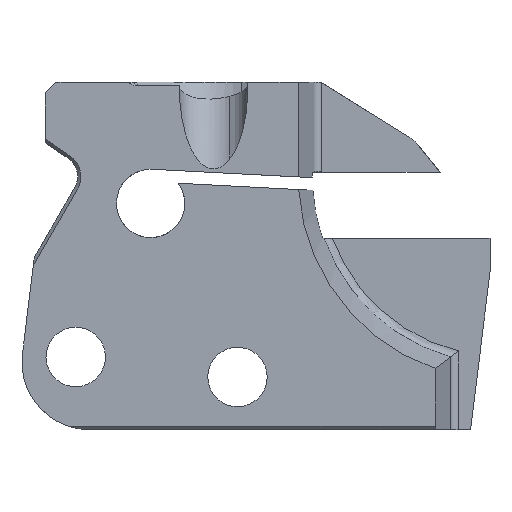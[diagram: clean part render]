
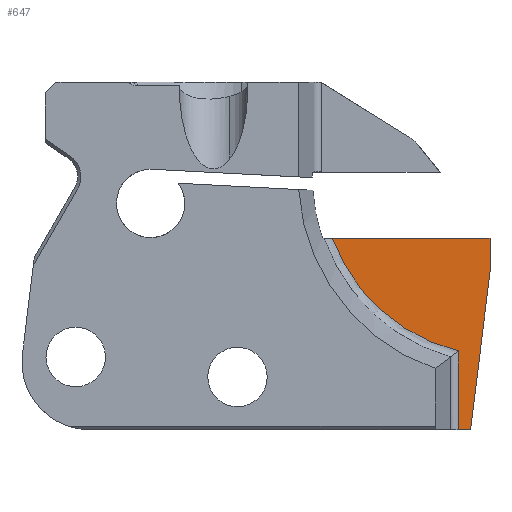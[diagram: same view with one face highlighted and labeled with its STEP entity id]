
A CAD part, front view. The second image highlights one B-rep face of the part: STEP entity #647.
In plain terms, the highlighted planar face has unit normal (0, -1, 0).
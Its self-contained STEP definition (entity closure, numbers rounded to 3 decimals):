
#189=AXIS2_PLACEMENT_3D('Plane Axis2P3D',#186,#187,#188) ;
#617=AXIS2_PLACEMENT_3D('Circle Axis2P3D',#615,#616,$) ;
#186=CARTESIAN_POINT('Axis2P3D Location',(53.924,4.8,24.)) ;
#577=CARTESIAN_POINT('Vertex',(52.924,4.8,15.)) ;
#580=CARTESIAN_POINT('Line Origine',(52.003,4.8,7.5)) ;
#584=CARTESIAN_POINT('Vertex',(51.082,4.8,0.)) ;
#606=CARTESIAN_POINT('Line Origine',(45.435,4.8,18.195)) ;
#610=CARTESIAN_POINT('Vertex',(52.924,4.8,18.195)) ;
#612=CARTESIAN_POINT('Vertex',(37.946,4.8,18.195)) ;
#615=CARTESIAN_POINT('Axis2P3D Location',(53.924,4.8,24.)) ;
#619=CARTESIAN_POINT('Vertex',(49.924,4.8,7.477)) ;
#622=CARTESIAN_POINT('Line Origine',(49.924,4.8,3.739)) ;
#626=CARTESIAN_POINT('Vertex',(49.924,4.8,0.)) ;
#629=CARTESIAN_POINT('Line Origine',(50.503,4.8,0.)) ;
#634=CARTESIAN_POINT('Line Origine',(52.924,4.8,16.597)) ;
#187=DIRECTION('Axis2P3D Direction',(0.,1.,-0.)) ;
#188=DIRECTION('Axis2P3D XDirection',(-1.,0.,0.)) ;
#581=DIRECTION('Vector Direction',(-0.122,0.,-0.993)) ;
#607=DIRECTION('Vector Direction',(-1.,0.,0.)) ;
#616=DIRECTION('Axis2P3D Direction',(0.,1.,-0.)) ;
#623=DIRECTION('Vector Direction',(0.,0.,-1.)) ;
#630=DIRECTION('Vector Direction',(1.,0.,0.)) ;
#635=DIRECTION('Vector Direction',(0.,0.,1.)) ;
#582=VECTOR('Line Direction',#581,1.) ;
#608=VECTOR('Line Direction',#607,1.) ;
#624=VECTOR('Line Direction',#623,1.) ;
#631=VECTOR('Line Direction',#630,1.) ;
#636=VECTOR('Line Direction',#635,1.) ;
#640=ORIENTED_EDGE('',*,*,#614,.T.) ;
#641=ORIENTED_EDGE('',*,*,#621,.F.) ;
#642=ORIENTED_EDGE('',*,*,#628,.T.) ;
#643=ORIENTED_EDGE('',*,*,#633,.T.) ;
#644=ORIENTED_EDGE('',*,*,#586,.F.) ;
#645=ORIENTED_EDGE('',*,*,#638,.T.) ;
#647=ADVANCED_FACE('NO_CUT',(#646),#190,.F.) ;
#618=CIRCLE('generated circle',#617,17.) ;
#586=EDGE_CURVE('',#578,#585,#583,.T.) ;
#614=EDGE_CURVE('',#611,#613,#609,.T.) ;
#621=EDGE_CURVE('',#620,#613,#618,.T.) ;
#628=EDGE_CURVE('',#620,#627,#625,.T.) ;
#633=EDGE_CURVE('',#627,#585,#632,.T.) ;
#638=EDGE_CURVE('',#578,#611,#637,.T.) ;
#639=EDGE_LOOP('',(#640,#641,#642,#643,#644,#645)) ;
#646=FACE_OUTER_BOUND('',#639,.T.) ;
#583=LINE('Line',#580,#582) ;
#609=LINE('Line',#606,#608) ;
#625=LINE('Line',#622,#624) ;
#632=LINE('Line',#629,#631) ;
#637=LINE('Line',#634,#636) ;
#190=PLANE('',#189) ;
#578=VERTEX_POINT('',#577) ;
#585=VERTEX_POINT('',#584) ;
#611=VERTEX_POINT('',#610) ;
#613=VERTEX_POINT('',#612) ;
#620=VERTEX_POINT('',#619) ;
#627=VERTEX_POINT('',#626) ;
